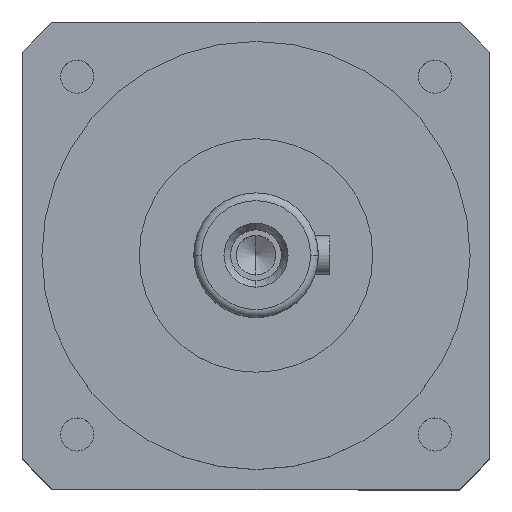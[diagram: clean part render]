
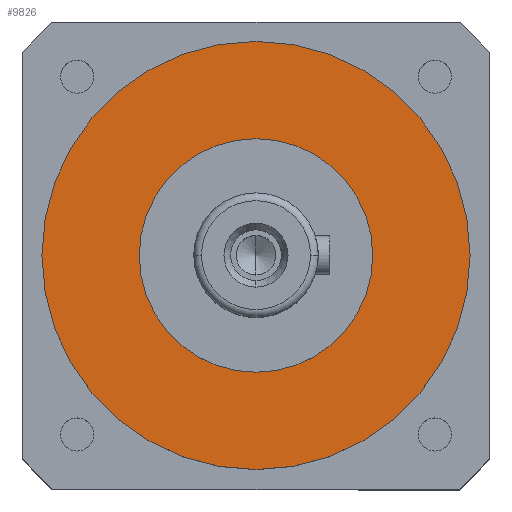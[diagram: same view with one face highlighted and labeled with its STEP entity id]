
A CAD part, top view. The second image highlights one B-rep face of the part: STEP entity #9826.
In plain terms, the highlighted planar face has unit normal (0, 0, 1).
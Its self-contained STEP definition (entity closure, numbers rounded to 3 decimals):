
#377 = PLANE ( 'NONE',  #19365 ) ;
#1408 = DIRECTION ( 'NONE',  ( 1., 0., 0. ) ) ;
#2073 = DIRECTION ( 'NONE',  ( 0., 0., 1. ) ) ;
#2078 = AXIS2_PLACEMENT_3D ( 'NONE', #21423, #2073, #24715 ) ;
#2926 = DIRECTION ( 'NONE',  ( 0., 0., -1. ) ) ;
#4456 = CIRCLE ( 'NONE', #11796, 55. ) ;
#6002 = EDGE_LOOP ( 'NONE', ( #18546, #12776 ) ) ;
#6153 = CARTESIAN_POINT ( 'NONE',  ( -30., 0., -52. ) ) ;
#6268 = VERTEX_POINT ( 'NONE', #6153 ) ;
#6534 = VERTEX_POINT ( 'NONE', #24501 ) ;
#9268 = FACE_OUTER_BOUND ( 'NONE', #29898, .T. ) ;
#9575 = CARTESIAN_POINT ( 'NONE',  ( 0., 0., -52. ) ) ;
#9826 = ADVANCED_FACE ( 'NONE', ( #25487, #9268 ), #377, .F. ) ;
#10158 = DIRECTION ( 'NONE',  ( -1., 0., 0. ) ) ;
#11796 = AXIS2_PLACEMENT_3D ( 'NONE', #22304, #2926, #25597 ) ;
#12776 = ORIENTED_EDGE ( 'NONE', *, *, #26549, .F. ) ;
#12831 = DIRECTION ( 'NONE',  ( 1., 0., 0. ) ) ;
#12872 = EDGE_CURVE ( 'NONE', #40522, #6268, #37498, .T. ) ;
#15452 = CARTESIAN_POINT ( 'NONE',  ( -55., 0., -52. ) ) ;
#17259 = ORIENTED_EDGE ( 'NONE', *, *, #20602, .F. ) ;
#18546 = ORIENTED_EDGE ( 'NONE', *, *, #12872, .F. ) ;
#19044 = CIRCLE ( 'NONE', #39586, 55. ) ;
#19365 = AXIS2_PLACEMENT_3D ( 'NONE', #26305, #29553, #10158 ) ;
#20602 = EDGE_CURVE ( 'NONE', #38739, #6534, #4456, .T. ) ;
#20768 = DIRECTION ( 'NONE',  ( 0., 0., -1. ) ) ;
#21423 = CARTESIAN_POINT ( 'NONE',  ( 0., 0., -52. ) ) ;
#22022 = CARTESIAN_POINT ( 'NONE',  ( 30., 0., -52. ) ) ;
#22304 = CARTESIAN_POINT ( 'NONE',  ( 0., 0., -52. ) ) ;
#22340 = ORIENTED_EDGE ( 'NONE', *, *, #22412, .F. ) ;
#22412 = EDGE_CURVE ( 'NONE', #6534, #38739, #19044, .T. ) ;
#24501 = CARTESIAN_POINT ( 'NONE',  ( 55., 0., -52. ) ) ;
#24715 = DIRECTION ( 'NONE',  ( 1., 0., 0. ) ) ;
#25487 = FACE_BOUND ( 'NONE', #6002, .T. ) ;
#25597 = DIRECTION ( 'NONE',  ( 1., 0., 0. ) ) ;
#26305 = CARTESIAN_POINT ( 'NONE',  ( 0., 30., -52. ) ) ;
#26342 = AXIS2_PLACEMENT_3D ( 'NONE', #9575, #32241, #12831 ) ;
#26549 = EDGE_CURVE ( 'NONE', #6268, #40522, #35162, .T. ) ;
#29553 = DIRECTION ( 'NONE',  ( 0., 0., -1. ) ) ;
#29898 = EDGE_LOOP ( 'NONE', ( #22340, #17259 ) ) ;
#32241 = DIRECTION ( 'NONE',  ( 0., 0., 1. ) ) ;
#35162 = CIRCLE ( 'NONE', #26342, 30. ) ;
#37498 = CIRCLE ( 'NONE', #2078, 30. ) ;
#38739 = VERTEX_POINT ( 'NONE', #15452 ) ;
#39586 = AXIS2_PLACEMENT_3D ( 'NONE', #40213, #20768, #1408 ) ;
#40213 = CARTESIAN_POINT ( 'NONE',  ( 0., 0., -52. ) ) ;
#40522 = VERTEX_POINT ( 'NONE', #22022 ) ;
